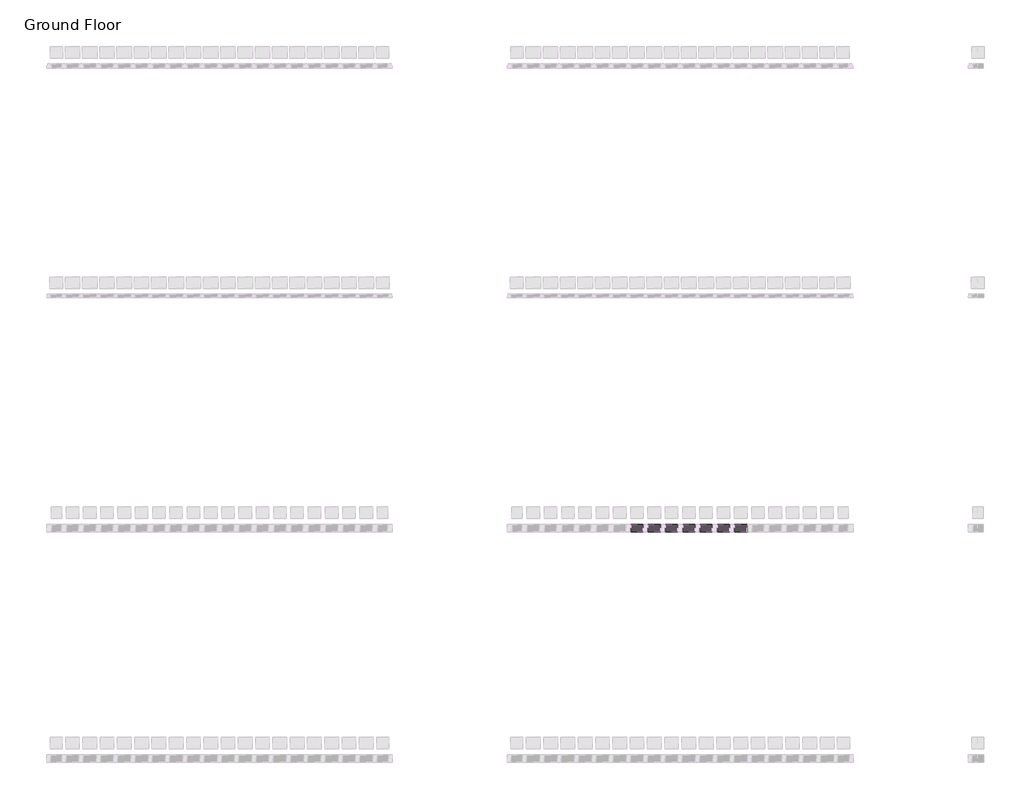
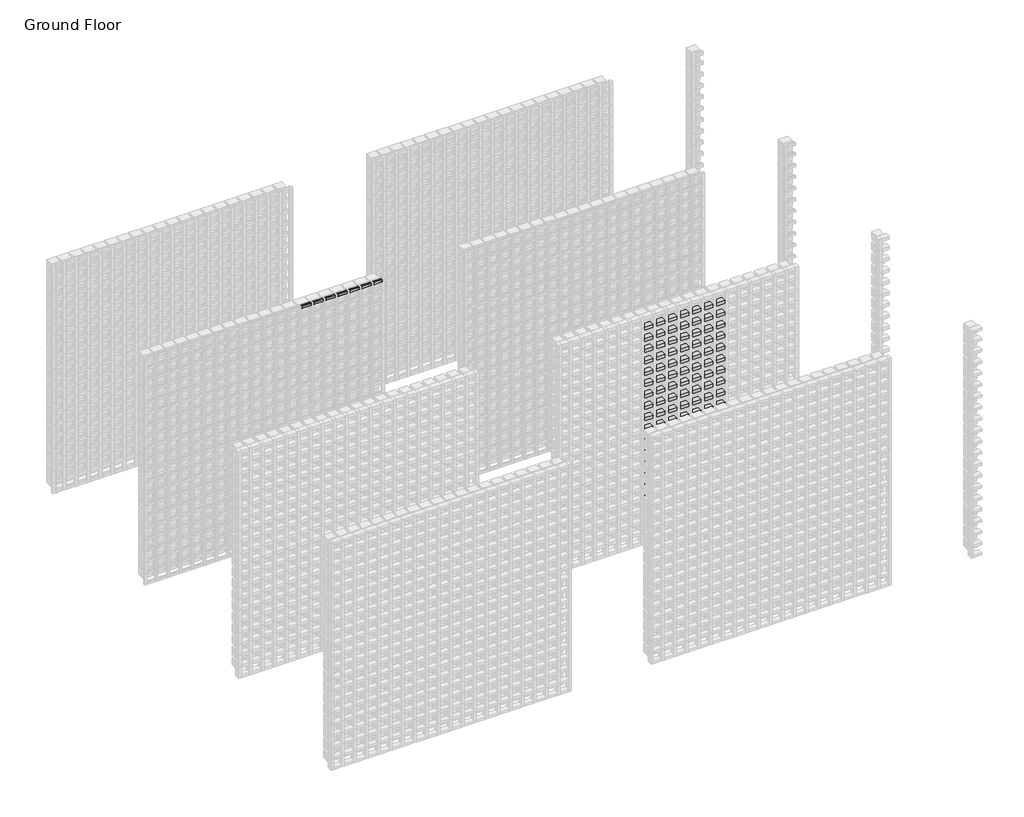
# One storey, part 149 of 350: 133 members, 9 plates.
"""IFC4 building model written with IfcOpenShell, lengths in millimetres."""

from ifc_helpers import new_model, si_unit, origin, place, context, project, spatial, transform, mapped, element, save
from components import rectangular_mullion_97e353d0, rectangular_mullion_f1976eb1, rectangular_mullion_66d447bf, rectangular_mullion_02594090, rectangular_mullion_7f8dba3f, rectangular_mullion_790ae51e, rectangular_mullion_a370a012, empty_system_panel_empty_5a3607ba, empty_system_panel_empty_babc703c, empty_system_panel_empty_56815599

model = new_model("IFC4")

# Units and contexts
model_context = context("Model", 3, world=origin())
ifc_project = project(units=[si_unit("LENGTHUNIT", "METRE", prefix="MILLI")], contexts=[model_context])

# Site, building, storey
site = spatial("IfcSite", under=ifc_project)
building = spatial("IfcBuilding", under=site)
storey = spatial("IfcBuildingStorey", under=building, Name="Ground Floor", Elevation=0.0)

# Members
placement = place(None, origin())
rectangular_mullion_shape = rectangular_mullion_97e353d0(model_context)
element("IfcMember", 1, ObjectType="Rectangular Mullion : Batten_Timber_Modinex_Austratus_Grid_Fascia_40x65_Ironbark", at=placement, inside=storey, context=model_context, shape_type="MappedRepresentation", body=[
    mapped(rectangular_mullion_shape, transform((15996.4361642, 40968.2978302, 450.0), x_axis=(0.0, 0.0, 1.0), y_axis=(0.0, -1.0, 0.0), z_axis=(1.0, 0.0, 0.0))),
])
element("IfcMember", 2, ObjectType="Rectangular Mullion : Batten_Timber_Modinex_Austratus_Grid_Fascia_40x65_Ironbark", at=placement, inside=storey, context=model_context, shape_type="MappedRepresentation", body=[
    mapped(rectangular_mullion_shape, transform((15096.4361642, 40968.2978302, 600.0), x_axis=(0.0, 0.0, 1.0), y_axis=(0.0, -1.0, 0.0), z_axis=(1.0, 0.0, 0.0))),
])
element("IfcMember", 3, ObjectType="Rectangular Mullion : Batten_Timber_Modinex_Austratus_Grid_Fascia_40x65_Ironbark", at=placement, inside=storey, context=model_context, shape_type="MappedRepresentation", body=[
    mapped(rectangular_mullion_shape, transform((15246.4361642, 40968.2978302, 600.0), x_axis=(0.0, 0.0, 1.0), y_axis=(0.0, -1.0, 0.0), z_axis=(1.0, 0.0, 0.0))),
])
element("IfcMember", 4, ObjectType="Rectangular Mullion : Batten_Timber_Modinex_Austratus_Grid_Fascia_40x65_Ironbark", at=placement, inside=storey, context=model_context, shape_type="MappedRepresentation", body=[
    mapped(rectangular_mullion_shape, transform((15396.4361642, 40968.2978302, 600.0), x_axis=(0.0, 0.0, 1.0), y_axis=(0.0, -1.0, 0.0), z_axis=(1.0, 0.0, 0.0))),
])
element("IfcMember", 5, ObjectType="Rectangular Mullion : Batten_Timber_Modinex_Austratus_Grid_Fascia_40x65_Ironbark", at=placement, inside=storey, context=model_context, shape_type="MappedRepresentation", body=[
    mapped(rectangular_mullion_shape, transform((15546.4361642, 40968.2978302, 600.0), x_axis=(0.0, 0.0, 1.0), y_axis=(0.0, -1.0, 0.0), z_axis=(1.0, 0.0, 0.0))),
])
element("IfcMember", 6, ObjectType="Rectangular Mullion : Batten_Timber_Modinex_Austratus_Grid_Fascia_40x65_Ironbark", at=placement, inside=storey, context=model_context, shape_type="MappedRepresentation", body=[
    mapped(rectangular_mullion_shape, transform((15696.4361642, 40968.2978302, 600.0), x_axis=(0.0, 0.0, 1.0), y_axis=(0.0, -1.0, 0.0), z_axis=(1.0, 0.0, 0.0))),
])
element("IfcMember", 7, ObjectType="Rectangular Mullion : Batten_Timber_Modinex_Austratus_Grid_Fascia_40x65_Ironbark", at=placement, inside=storey, context=model_context, shape_type="MappedRepresentation", body=[
    mapped(rectangular_mullion_shape, transform((15846.4361642, 40968.2978302, 600.0), x_axis=(0.0, 0.0, 1.0), y_axis=(0.0, -1.0, 0.0), z_axis=(1.0, 0.0, 0.0))),
])
element("IfcMember", 8, ObjectType="Rectangular Mullion : Batten_Timber_Modinex_Austratus_Grid_Fascia_40x65_Ironbark", at=placement, inside=storey, context=model_context, shape_type="MappedRepresentation", body=[
    mapped(rectangular_mullion_shape, transform((15996.4361642, 40968.2978302, 600.0), x_axis=(0.0, 0.0, 1.0), y_axis=(0.0, -1.0, 0.0), z_axis=(1.0, 0.0, 0.0))),
])
element("IfcMember", 9, ObjectType="Rectangular Mullion : Batten_Timber_Modinex_Austratus_Grid_Fascia_40x65_Ironbark", at=placement, inside=storey, context=model_context, shape_type="MappedRepresentation", body=[
    mapped(rectangular_mullion_shape, transform((15096.4361642, 40968.2978302, 750.0), x_axis=(0.0, 0.0, 1.0), y_axis=(0.0, -1.0, 0.0), z_axis=(1.0, 0.0, 0.0))),
])
element("IfcMember", 10, ObjectType="Rectangular Mullion : Batten_Timber_Modinex_Austratus_Grid_Fascia_40x65_Ironbark", at=placement, inside=storey, context=model_context, shape_type="MappedRepresentation", body=[
    mapped(rectangular_mullion_shape, transform((15246.4361642, 40968.2978302, 750.0), x_axis=(0.0, 0.0, 1.0), y_axis=(0.0, -1.0, 0.0), z_axis=(1.0, 0.0, 0.0))),
])
element("IfcMember", 11, ObjectType="Rectangular Mullion : Batten_Timber_Modinex_Austratus_Grid_Fascia_40x65_Ironbark", at=placement, inside=storey, context=model_context, shape_type="MappedRepresentation", body=[
    mapped(rectangular_mullion_shape, transform((15396.4361642, 40968.2978302, 750.0), x_axis=(0.0, 0.0, 1.0), y_axis=(0.0, -1.0, 0.0), z_axis=(1.0, 0.0, 0.0))),
])
element("IfcMember", 12, ObjectType="Rectangular Mullion : Batten_Timber_Modinex_Austratus_Grid_Fascia_40x65_Ironbark", at=placement, inside=storey, context=model_context, shape_type="MappedRepresentation", body=[
    mapped(rectangular_mullion_shape, transform((15546.4361642, 40968.2978302, 750.0), x_axis=(0.0, 0.0, 1.0), y_axis=(0.0, -1.0, 0.0), z_axis=(1.0, 0.0, 0.0))),
])
element("IfcMember", 13, ObjectType="Rectangular Mullion : Batten_Timber_Modinex_Austratus_Grid_Fascia_40x65_Ironbark", at=placement, inside=storey, context=model_context, shape_type="MappedRepresentation", body=[
    mapped(rectangular_mullion_shape, transform((15696.4361642, 40968.2978302, 750.0), x_axis=(0.0, 0.0, 1.0), y_axis=(0.0, -1.0, 0.0), z_axis=(1.0, 0.0, 0.0))),
])
element("IfcMember", 14, ObjectType="Rectangular Mullion : Batten_Timber_Modinex_Austratus_Grid_Fascia_40x65_Ironbark", at=placement, inside=storey, context=model_context, shape_type="MappedRepresentation", body=[
    mapped(rectangular_mullion_shape, transform((15846.4361642, 40968.2978302, 750.0), x_axis=(0.0, 0.0, 1.0), y_axis=(0.0, -1.0, 0.0), z_axis=(1.0, 0.0, 0.0))),
])
element("IfcMember", 15, ObjectType="Rectangular Mullion : Batten_Timber_Modinex_Austratus_Grid_Fascia_40x65_Ironbark", at=placement, inside=storey, context=model_context, shape_type="MappedRepresentation", body=[
    mapped(rectangular_mullion_shape, transform((15996.4361642, 40968.2978302, 750.0), x_axis=(0.0, 0.0, 1.0), y_axis=(0.0, -1.0, 0.0), z_axis=(1.0, 0.0, 0.0))),
])
element("IfcMember", 16, ObjectType="Rectangular Mullion : Batten_Timber_Modinex_Austratus_Grid_Fascia_40x65_Ironbark", at=placement, inside=storey, context=model_context, shape_type="MappedRepresentation", body=[
    mapped(rectangular_mullion_shape, transform((15096.4361642, 40968.2978302, 900.0), x_axis=(0.0, 0.0, 1.0), y_axis=(0.0, -1.0, 0.0), z_axis=(1.0, 0.0, 0.0))),
])
element("IfcMember", 17, ObjectType="Rectangular Mullion : Batten_Timber_Modinex_Austratus_Grid_Fascia_40x65_Ironbark", at=placement, inside=storey, context=model_context, shape_type="MappedRepresentation", body=[
    mapped(rectangular_mullion_shape, transform((15246.4361642, 40968.2978302, 900.0), x_axis=(0.0, 0.0, 1.0), y_axis=(0.0, -1.0, 0.0), z_axis=(1.0, 0.0, 0.0))),
])
element("IfcMember", 18, ObjectType="Rectangular Mullion : Batten_Timber_Modinex_Austratus_Grid_Fascia_40x65_Ironbark", at=placement, inside=storey, context=model_context, shape_type="MappedRepresentation", body=[
    mapped(rectangular_mullion_shape, transform((15396.4361642, 40968.2978302, 900.0), x_axis=(0.0, 0.0, 1.0), y_axis=(0.0, -1.0, 0.0), z_axis=(1.0, 0.0, 0.0))),
])
element("IfcMember", 19, ObjectType="Rectangular Mullion : Batten_Timber_Modinex_Austratus_Grid_Fascia_40x65_Ironbark", at=placement, inside=storey, context=model_context, shape_type="MappedRepresentation", body=[
    mapped(rectangular_mullion_shape, transform((15546.4361642, 40968.2978302, 900.0), x_axis=(0.0, 0.0, 1.0), y_axis=(0.0, -1.0, 0.0), z_axis=(1.0, 0.0, 0.0))),
])
element("IfcMember", 20, ObjectType="Rectangular Mullion : Batten_Timber_Modinex_Austratus_Grid_Fascia_40x65_Ironbark", at=placement, inside=storey, context=model_context, shape_type="MappedRepresentation", body=[
    mapped(rectangular_mullion_shape, transform((15696.4361642, 40968.2978302, 900.0), x_axis=(0.0, 0.0, 1.0), y_axis=(0.0, -1.0, 0.0), z_axis=(1.0, 0.0, 0.0))),
])
element("IfcMember", 21, ObjectType="Rectangular Mullion : Batten_Timber_Modinex_Austratus_Grid_Fascia_40x65_Ironbark", at=placement, inside=storey, context=model_context, shape_type="MappedRepresentation", body=[
    mapped(rectangular_mullion_shape, transform((15846.4361642, 40968.2978302, 900.0), x_axis=(0.0, 0.0, 1.0), y_axis=(0.0, -1.0, 0.0), z_axis=(1.0, 0.0, 0.0))),
])
element("IfcMember", 22, ObjectType="Rectangular Mullion : Batten_Timber_Modinex_Austratus_Grid_Fascia_40x65_Ironbark", at=placement, inside=storey, context=model_context, shape_type="MappedRepresentation", body=[
    mapped(rectangular_mullion_shape, transform((15996.4361642, 40968.2978302, 900.0), x_axis=(0.0, 0.0, 1.0), y_axis=(0.0, -1.0, 0.0), z_axis=(1.0, 0.0, 0.0))),
])
element("IfcMember", 23, ObjectType="Rectangular Mullion : Batten_Timber_Modinex_Austratus_Grid_Fascia_40x65_Ironbark", at=placement, inside=storey, context=model_context, shape_type="MappedRepresentation", body=[
    mapped(rectangular_mullion_shape, transform((15096.4361642, 40968.2978302, 1050.0), x_axis=(0.0, 0.0, 1.0), y_axis=(0.0, -1.0, 0.0), z_axis=(1.0, 0.0, 0.0))),
])
element("IfcMember", 24, ObjectType="Rectangular Mullion : Batten_Timber_Modinex_Austratus_Grid_Fascia_40x65_Ironbark", at=placement, inside=storey, context=model_context, shape_type="MappedRepresentation", body=[
    mapped(rectangular_mullion_shape, transform((15246.4361642, 40968.2978302, 1050.0), x_axis=(0.0, 0.0, 1.0), y_axis=(0.0, -1.0, 0.0), z_axis=(1.0, 0.0, 0.0))),
])
element("IfcMember", 25, ObjectType="Rectangular Mullion : Batten_Timber_Modinex_Austratus_Grid_Fascia_40x65_Ironbark", at=placement, inside=storey, context=model_context, shape_type="MappedRepresentation", body=[
    mapped(rectangular_mullion_shape, transform((15396.4361642, 40968.2978302, 1050.0), x_axis=(0.0, 0.0, 1.0), y_axis=(0.0, -1.0, 0.0), z_axis=(1.0, 0.0, 0.0))),
])
element("IfcMember", 26, ObjectType="Rectangular Mullion : Batten_Timber_Modinex_Austratus_Grid_Fascia_40x65_Ironbark", at=placement, inside=storey, context=model_context, shape_type="MappedRepresentation", body=[
    mapped(rectangular_mullion_shape, transform((15546.4361642, 40968.2978302, 1050.0), x_axis=(0.0, 0.0, 1.0), y_axis=(0.0, -1.0, 0.0), z_axis=(1.0, 0.0, 0.0))),
])
element("IfcMember", 27, ObjectType="Rectangular Mullion : Batten_Timber_Modinex_Austratus_Grid_Fascia_40x65_Ironbark", at=placement, inside=storey, context=model_context, shape_type="MappedRepresentation", body=[
    mapped(rectangular_mullion_shape, transform((15696.4361642, 40968.2978302, 1050.0), x_axis=(0.0, 0.0, 1.0), y_axis=(0.0, -1.0, 0.0), z_axis=(1.0, 0.0, 0.0))),
])
element("IfcMember", 28, ObjectType="Rectangular Mullion : Batten_Timber_Modinex_Austratus_Grid_Fascia_40x65_Ironbark", at=placement, inside=storey, context=model_context, shape_type="MappedRepresentation", body=[
    mapped(rectangular_mullion_shape, transform((15846.4361642, 40968.2978302, 1050.0), x_axis=(0.0, 0.0, 1.0), y_axis=(0.0, -1.0, 0.0), z_axis=(1.0, 0.0, 0.0))),
])
element("IfcMember", 29, ObjectType="Rectangular Mullion : Batten_Timber_Modinex_Austratus_Grid_Fascia_40x65_Ironbark", at=placement, inside=storey, context=model_context, shape_type="MappedRepresentation", body=[
    mapped(rectangular_mullion_shape, transform((15996.4361642, 40968.2978302, 1050.0), x_axis=(0.0, 0.0, 1.0), y_axis=(0.0, -1.0, 0.0), z_axis=(1.0, 0.0, 0.0))),
])
element("IfcMember", 30, ObjectType="Rectangular Mullion : Batten_Timber_Modinex_Austratus_Grid_Fascia_40x65_Ironbark", at=placement, inside=storey, context=model_context, shape_type="MappedRepresentation", body=[
    mapped(rectangular_mullion_shape, transform((15096.4361642, 40968.2978302, 1200.0), x_axis=(0.0, 0.0, 1.0), y_axis=(0.0, -1.0, 0.0), z_axis=(1.0, 0.0, 0.0))),
])
element("IfcMember", 31, ObjectType="Rectangular Mullion : Batten_Timber_Modinex_Austratus_Grid_Fascia_40x65_Ironbark", at=placement, inside=storey, context=model_context, shape_type="MappedRepresentation", body=[
    mapped(rectangular_mullion_shape, transform((15246.4361642, 40968.2978302, 1200.0), x_axis=(0.0, 0.0, 1.0), y_axis=(0.0, -1.0, 0.0), z_axis=(1.0, 0.0, 0.0))),
])
element("IfcMember", 32, ObjectType="Rectangular Mullion : Batten_Timber_Modinex_Austratus_Grid_Fascia_40x65_Ironbark", at=placement, inside=storey, context=model_context, shape_type="MappedRepresentation", body=[
    mapped(rectangular_mullion_shape, transform((15396.4361642, 40968.2978302, 1200.0), x_axis=(0.0, 0.0, 1.0), y_axis=(0.0, -1.0, 0.0), z_axis=(1.0, 0.0, 0.0))),
])
element("IfcMember", 33, ObjectType="Rectangular Mullion : Batten_Timber_Modinex_Austratus_Grid_Fascia_40x65_Ironbark", at=placement, inside=storey, context=model_context, shape_type="MappedRepresentation", body=[
    mapped(rectangular_mullion_shape, transform((15546.4361642, 40968.2978302, 1200.0), x_axis=(0.0, 0.0, 1.0), y_axis=(0.0, -1.0, 0.0), z_axis=(1.0, 0.0, 0.0))),
])
element("IfcMember", 34, ObjectType="Rectangular Mullion : Batten_Timber_Modinex_Austratus_Grid_Fascia_40x65_Ironbark", at=placement, inside=storey, context=model_context, shape_type="MappedRepresentation", body=[
    mapped(rectangular_mullion_shape, transform((15696.4361642, 40968.2978302, 1200.0), x_axis=(0.0, 0.0, 1.0), y_axis=(0.0, -1.0, 0.0), z_axis=(1.0, 0.0, 0.0))),
])
element("IfcMember", 35, ObjectType="Rectangular Mullion : Batten_Timber_Modinex_Austratus_Grid_Fascia_40x65_Ironbark", at=placement, inside=storey, context=model_context, shape_type="MappedRepresentation", body=[
    mapped(rectangular_mullion_shape, transform((15846.4361642, 40968.2978302, 1200.0), x_axis=(0.0, 0.0, 1.0), y_axis=(0.0, -1.0, 0.0), z_axis=(1.0, 0.0, 0.0))),
])
element("IfcMember", 36, ObjectType="Rectangular Mullion : Batten_Timber_Modinex_Austratus_Grid_Fascia_40x65_Ironbark", at=placement, inside=storey, context=model_context, shape_type="MappedRepresentation", body=[
    mapped(rectangular_mullion_shape, transform((15996.4361642, 40968.2978302, 1200.0), x_axis=(0.0, 0.0, 1.0), y_axis=(0.0, -1.0, 0.0), z_axis=(1.0, 0.0, 0.0))),
])
element("IfcMember", 37, ObjectType="Rectangular Mullion : Batten_Timber_Modinex_Austratus_Grid_Fascia_40x65_Ironbark", at=placement, inside=storey, context=model_context, shape_type="MappedRepresentation", body=[
    mapped(rectangular_mullion_shape, transform((15096.4361642, 40968.2978302, 1350.0), x_axis=(0.0, 0.0, 1.0), y_axis=(0.0, -1.0, 0.0), z_axis=(1.0, 0.0, 0.0))),
])
element("IfcMember", 38, ObjectType="Rectangular Mullion : Batten_Timber_Modinex_Austratus_Grid_Fascia_40x65_Ironbark", at=placement, inside=storey, context=model_context, shape_type="MappedRepresentation", body=[
    mapped(rectangular_mullion_shape, transform((15246.4361642, 40968.2978302, 1350.0), x_axis=(0.0, 0.0, 1.0), y_axis=(0.0, -1.0, 0.0), z_axis=(1.0, 0.0, 0.0))),
])
element("IfcMember", 39, ObjectType="Rectangular Mullion : Batten_Timber_Modinex_Austratus_Grid_Fascia_40x65_Ironbark", at=placement, inside=storey, context=model_context, shape_type="MappedRepresentation", body=[
    mapped(rectangular_mullion_shape, transform((15396.4361642, 40968.2978302, 1350.0), x_axis=(0.0, 0.0, 1.0), y_axis=(0.0, -1.0, 0.0), z_axis=(1.0, 0.0, 0.0))),
])
element("IfcMember", 40, ObjectType="Rectangular Mullion : Batten_Timber_Modinex_Austratus_Grid_Fascia_40x65_Ironbark", at=placement, inside=storey, context=model_context, shape_type="MappedRepresentation", body=[
    mapped(rectangular_mullion_shape, transform((15546.4361642, 40968.2978302, 1350.0), x_axis=(0.0, 0.0, 1.0), y_axis=(0.0, -1.0, 0.0), z_axis=(1.0, 0.0, 0.0))),
])
element("IfcMember", 41, ObjectType="Rectangular Mullion : Batten_Timber_Modinex_Austratus_Grid_Fascia_40x65_Ironbark", at=placement, inside=storey, context=model_context, shape_type="MappedRepresentation", body=[
    mapped(rectangular_mullion_shape, transform((15696.4361642, 40968.2978302, 1350.0), x_axis=(0.0, 0.0, 1.0), y_axis=(0.0, -1.0, 0.0), z_axis=(1.0, 0.0, 0.0))),
])
element("IfcMember", 42, ObjectType="Rectangular Mullion : Batten_Timber_Modinex_Austratus_Grid_Fascia_40x65_Ironbark", at=placement, inside=storey, context=model_context, shape_type="MappedRepresentation", body=[
    mapped(rectangular_mullion_shape, transform((15846.4361642, 40968.2978302, 1350.0), x_axis=(0.0, 0.0, 1.0), y_axis=(0.0, -1.0, 0.0), z_axis=(1.0, 0.0, 0.0))),
])
element("IfcMember", 43, ObjectType="Rectangular Mullion : Batten_Timber_Modinex_Austratus_Grid_Fascia_40x65_Ironbark", at=placement, inside=storey, context=model_context, shape_type="MappedRepresentation", body=[
    mapped(rectangular_mullion_shape, transform((15996.4361642, 40968.2978302, 1350.0), x_axis=(0.0, 0.0, 1.0), y_axis=(0.0, -1.0, 0.0), z_axis=(1.0, 0.0, 0.0))),
])
element("IfcMember", 44, ObjectType="Rectangular Mullion : Batten_Timber_Modinex_Austratus_Grid_Fascia_40x65_Ironbark", at=placement, inside=storey, context=model_context, shape_type="MappedRepresentation", body=[
    mapped(rectangular_mullion_shape, transform((15096.4361642, 40968.2978302, 1500.0), x_axis=(0.0, 0.0, 1.0), y_axis=(0.0, -1.0, 0.0), z_axis=(1.0, 0.0, 0.0))),
])
element("IfcMember", 45, ObjectType="Rectangular Mullion : Batten_Timber_Modinex_Austratus_Grid_Fascia_40x65_Ironbark", at=placement, inside=storey, context=model_context, shape_type="MappedRepresentation", body=[
    mapped(rectangular_mullion_shape, transform((15246.4361642, 40968.2978302, 1500.0), x_axis=(0.0, 0.0, 1.0), y_axis=(0.0, -1.0, 0.0), z_axis=(1.0, 0.0, 0.0))),
])
element("IfcMember", 46, ObjectType="Rectangular Mullion : Batten_Timber_Modinex_Austratus_Grid_Fascia_40x65_Ironbark", at=placement, inside=storey, context=model_context, shape_type="MappedRepresentation", body=[
    mapped(rectangular_mullion_shape, transform((15396.4361642, 40968.2978302, 1500.0), x_axis=(0.0, 0.0, 1.0), y_axis=(0.0, -1.0, 0.0), z_axis=(1.0, 0.0, 0.0))),
])
element("IfcMember", 47, ObjectType="Rectangular Mullion : Batten_Timber_Modinex_Austratus_Grid_Fascia_40x65_Ironbark", at=placement, inside=storey, context=model_context, shape_type="MappedRepresentation", body=[
    mapped(rectangular_mullion_shape, transform((15546.4361642, 40968.2978302, 1500.0), x_axis=(0.0, 0.0, 1.0), y_axis=(0.0, -1.0, 0.0), z_axis=(1.0, 0.0, 0.0))),
])
element("IfcMember", 48, ObjectType="Rectangular Mullion : Batten_Timber_Modinex_Austratus_Grid_Fascia_40x65_Ironbark", at=placement, inside=storey, context=model_context, shape_type="MappedRepresentation", body=[
    mapped(rectangular_mullion_shape, transform((15696.4361642, 40968.2978302, 1500.0), x_axis=(0.0, 0.0, 1.0), y_axis=(0.0, -1.0, 0.0), z_axis=(1.0, 0.0, 0.0))),
])
element("IfcMember", 49, ObjectType="Rectangular Mullion : Batten_Timber_Modinex_Austratus_Grid_Fascia_40x65_Ironbark", at=placement, inside=storey, context=model_context, shape_type="MappedRepresentation", body=[
    mapped(rectangular_mullion_shape, transform((15846.4361642, 40968.2978302, 1500.0), x_axis=(0.0, 0.0, 1.0), y_axis=(0.0, -1.0, 0.0), z_axis=(1.0, 0.0, 0.0))),
])
element("IfcMember", 50, ObjectType="Rectangular Mullion : Batten_Timber_Modinex_Austratus_Grid_Fascia_40x65_Ironbark", at=placement, inside=storey, context=model_context, shape_type="MappedRepresentation", body=[
    mapped(rectangular_mullion_shape, transform((15996.4361642, 40968.2978302, 1500.0), x_axis=(0.0, 0.0, 1.0), y_axis=(0.0, -1.0, 0.0), z_axis=(1.0, 0.0, 0.0))),
])
element("IfcMember", 51, ObjectType="Rectangular Mullion : Batten_Timber_Modinex_Austratus_Grid_Fascia_40x65_Ironbark", at=placement, inside=storey, context=model_context, shape_type="MappedRepresentation", body=[
    mapped(rectangular_mullion_shape, transform((15096.4361642, 40968.2978302, 1650.0), x_axis=(0.0, 0.0, 1.0), y_axis=(0.0, -1.0, 0.0), z_axis=(1.0, 0.0, 0.0))),
])
element("IfcMember", 52, ObjectType="Rectangular Mullion : Batten_Timber_Modinex_Austratus_Grid_Fascia_40x65_Ironbark", at=placement, inside=storey, context=model_context, shape_type="MappedRepresentation", body=[
    mapped(rectangular_mullion_shape, transform((15246.4361642, 40968.2978302, 1650.0), x_axis=(0.0, 0.0, 1.0), y_axis=(0.0, -1.0, 0.0), z_axis=(1.0, 0.0, 0.0))),
])
element("IfcMember", 53, ObjectType="Rectangular Mullion : Batten_Timber_Modinex_Austratus_Grid_Fascia_40x65_Ironbark", at=placement, inside=storey, context=model_context, shape_type="MappedRepresentation", body=[
    mapped(rectangular_mullion_shape, transform((15396.4361642, 40968.2978302, 1650.0), x_axis=(0.0, 0.0, 1.0), y_axis=(0.0, -1.0, 0.0), z_axis=(1.0, 0.0, 0.0))),
])
element("IfcMember", 54, ObjectType="Rectangular Mullion : Batten_Timber_Modinex_Austratus_Grid_Fascia_40x65_Ironbark", at=placement, inside=storey, context=model_context, shape_type="MappedRepresentation", body=[
    mapped(rectangular_mullion_shape, transform((15546.4361642, 40968.2978302, 1650.0), x_axis=(0.0, 0.0, 1.0), y_axis=(0.0, -1.0, 0.0), z_axis=(1.0, 0.0, 0.0))),
])
element("IfcMember", 55, ObjectType="Rectangular Mullion : Batten_Timber_Modinex_Austratus_Grid_Fascia_40x65_Ironbark", at=placement, inside=storey, context=model_context, shape_type="MappedRepresentation", body=[
    mapped(rectangular_mullion_shape, transform((15696.4361642, 40968.2978302, 1650.0), x_axis=(0.0, 0.0, 1.0), y_axis=(0.0, -1.0, 0.0), z_axis=(1.0, 0.0, 0.0))),
])
element("IfcMember", 56, ObjectType="Rectangular Mullion : Batten_Timber_Modinex_Austratus_Grid_Fascia_40x65_Ironbark", at=placement, inside=storey, context=model_context, shape_type="MappedRepresentation", body=[
    mapped(rectangular_mullion_shape, transform((15846.4361642, 40968.2978302, 1650.0), x_axis=(0.0, 0.0, 1.0), y_axis=(0.0, -1.0, 0.0), z_axis=(1.0, 0.0, 0.0))),
])
element("IfcMember", 57, ObjectType="Rectangular Mullion : Batten_Timber_Modinex_Austratus_Grid_Fascia_40x65_Ironbark", at=placement, inside=storey, context=model_context, shape_type="MappedRepresentation", body=[
    mapped(rectangular_mullion_shape, transform((15996.4361642, 40968.2978302, 1650.0), x_axis=(0.0, 0.0, 1.0), y_axis=(0.0, -1.0, 0.0), z_axis=(1.0, 0.0, 0.0))),
])
element("IfcMember", 58, ObjectType="Rectangular Mullion : Batten_Timber_Modinex_Austratus_Grid_Fascia_40x65_Ironbark", at=placement, inside=storey, context=model_context, shape_type="MappedRepresentation", body=[
    mapped(rectangular_mullion_shape, transform((15096.4361642, 40968.2978302, 1800.0), x_axis=(0.0, 0.0, 1.0), y_axis=(0.0, -1.0, 0.0), z_axis=(1.0, 0.0, 0.0))),
])
element("IfcMember", 59, ObjectType="Rectangular Mullion : Batten_Timber_Modinex_Austratus_Grid_Fascia_40x65_Ironbark", at=placement, inside=storey, context=model_context, shape_type="MappedRepresentation", body=[
    mapped(rectangular_mullion_shape, transform((15246.4361642, 40968.2978302, 1800.0), x_axis=(0.0, 0.0, 1.0), y_axis=(0.0, -1.0, 0.0), z_axis=(1.0, 0.0, 0.0))),
])
element("IfcMember", 60, ObjectType="Rectangular Mullion : Batten_Timber_Modinex_Austratus_Grid_Fascia_40x65_Ironbark", at=placement, inside=storey, context=model_context, shape_type="MappedRepresentation", body=[
    mapped(rectangular_mullion_shape, transform((15396.4361642, 40968.2978302, 1800.0), x_axis=(0.0, 0.0, 1.0), y_axis=(0.0, -1.0, 0.0), z_axis=(1.0, 0.0, 0.0))),
])
element("IfcMember", 61, ObjectType="Rectangular Mullion : Batten_Timber_Modinex_Austratus_Grid_Fascia_40x65_Ironbark", at=placement, inside=storey, context=model_context, shape_type="MappedRepresentation", body=[
    mapped(rectangular_mullion_shape, transform((15546.4361642, 40968.2978302, 1800.0), x_axis=(0.0, 0.0, 1.0), y_axis=(0.0, -1.0, 0.0), z_axis=(1.0, 0.0, 0.0))),
])
element("IfcMember", 62, ObjectType="Rectangular Mullion : Batten_Timber_Modinex_Austratus_Grid_Fascia_40x65_Ironbark", at=placement, inside=storey, context=model_context, shape_type="MappedRepresentation", body=[
    mapped(rectangular_mullion_shape, transform((15696.4361642, 40968.2978302, 1800.0), x_axis=(0.0, 0.0, 1.0), y_axis=(0.0, -1.0, 0.0), z_axis=(1.0, 0.0, 0.0))),
])
element("IfcMember", 63, ObjectType="Rectangular Mullion : Batten_Timber_Modinex_Austratus_Grid_Fascia_40x65_Ironbark", at=placement, inside=storey, context=model_context, shape_type="MappedRepresentation", body=[
    mapped(rectangular_mullion_shape, transform((15846.4361642, 40968.2978302, 1800.0), x_axis=(0.0, 0.0, 1.0), y_axis=(0.0, -1.0, 0.0), z_axis=(1.0, 0.0, 0.0))),
])
element("IfcMember", 64, ObjectType="Rectangular Mullion : Batten_Timber_Modinex_Austratus_Grid_Fascia_40x65_Ironbark", at=placement, inside=storey, context=model_context, shape_type="MappedRepresentation", body=[
    mapped(rectangular_mullion_shape, transform((15996.4361642, 40968.2978302, 1800.0), x_axis=(0.0, 0.0, 1.0), y_axis=(0.0, -1.0, 0.0), z_axis=(1.0, 0.0, 0.0))),
])
element("IfcMember", 65, ObjectType="Rectangular Mullion : Batten_Timber_Modinex_Austratus_Grid_Fascia_40x65_Ironbark", at=placement, inside=storey, context=model_context, shape_type="MappedRepresentation", body=[
    mapped(rectangular_mullion_shape, transform((15096.4361642, 40968.2978302, 1950.0), x_axis=(0.0, 0.0, 1.0), y_axis=(0.0, -1.0, 0.0), z_axis=(1.0, 0.0, 0.0))),
])
element("IfcMember", 66, ObjectType="Rectangular Mullion : Batten_Timber_Modinex_Austratus_Grid_Fascia_40x65_Ironbark", at=placement, inside=storey, context=model_context, shape_type="MappedRepresentation", body=[
    mapped(rectangular_mullion_shape, transform((15246.4361642, 40968.2978302, 1950.0), x_axis=(0.0, 0.0, 1.0), y_axis=(0.0, -1.0, 0.0), z_axis=(1.0, 0.0, 0.0))),
])
element("IfcMember", 67, ObjectType="Rectangular Mullion : Batten_Timber_Modinex_Austratus_Grid_Fascia_40x65_Ironbark", at=placement, inside=storey, context=model_context, shape_type="MappedRepresentation", body=[
    mapped(rectangular_mullion_shape, transform((15396.4361642, 40968.2978302, 1950.0), x_axis=(0.0, 0.0, 1.0), y_axis=(0.0, -1.0, 0.0), z_axis=(1.0, 0.0, 0.0))),
])
element("IfcMember", 68, ObjectType="Rectangular Mullion : Batten_Timber_Modinex_Austratus_Grid_Fascia_40x65_Ironbark", at=placement, inside=storey, context=model_context, shape_type="MappedRepresentation", body=[
    mapped(rectangular_mullion_shape, transform((15546.4361642, 40968.2978302, 1950.0), x_axis=(0.0, 0.0, 1.0), y_axis=(0.0, -1.0, 0.0), z_axis=(1.0, 0.0, 0.0))),
])
element("IfcMember", 69, ObjectType="Rectangular Mullion : Batten_Timber_Modinex_Austratus_Grid_Fascia_40x65_Ironbark", at=placement, inside=storey, context=model_context, shape_type="MappedRepresentation", body=[
    mapped(rectangular_mullion_shape, transform((15696.4361642, 40968.2978302, 1950.0), x_axis=(0.0, 0.0, 1.0), y_axis=(0.0, -1.0, 0.0), z_axis=(1.0, 0.0, 0.0))),
])
element("IfcMember", 70, ObjectType="Rectangular Mullion : Batten_Timber_Modinex_Austratus_Grid_Fascia_40x65_Ironbark", at=placement, inside=storey, context=model_context, shape_type="MappedRepresentation", body=[
    mapped(rectangular_mullion_shape, transform((15846.4361642, 40968.2978302, 1950.0), x_axis=(0.0, 0.0, 1.0), y_axis=(0.0, -1.0, 0.0), z_axis=(1.0, 0.0, 0.0))),
])
element("IfcMember", 71, ObjectType="Rectangular Mullion : Batten_Timber_Modinex_Austratus_Grid_Fascia_40x65_Ironbark", at=placement, inside=storey, context=model_context, shape_type="MappedRepresentation", body=[
    mapped(rectangular_mullion_shape, transform((15996.4361642, 40968.2978302, 1950.0), x_axis=(0.0, 0.0, 1.0), y_axis=(0.0, -1.0, 0.0), z_axis=(1.0, 0.0, 0.0))),
])
element("IfcMember", 72, ObjectType="Rectangular Mullion : Batten_Timber_Modinex_Austratus_Grid_Fascia_40x65_Ironbark", at=placement, inside=storey, context=model_context, shape_type="MappedRepresentation", body=[
    mapped(rectangular_mullion_shape, transform((15096.4361642, 40968.2978302, 2100.0), x_axis=(0.0, 0.0, 1.0), y_axis=(0.0, -1.0, 0.0), z_axis=(1.0, 0.0, 0.0))),
])
element("IfcMember", 73, ObjectType="Rectangular Mullion : Batten_Timber_Modinex_Austratus_Grid_Fascia_40x65_Ironbark", at=placement, inside=storey, context=model_context, shape_type="MappedRepresentation", body=[
    mapped(rectangular_mullion_shape, transform((15246.4361642, 40968.2978302, 2100.0), x_axis=(0.0, 0.0, 1.0), y_axis=(0.0, -1.0, 0.0), z_axis=(1.0, 0.0, 0.0))),
])
element("IfcMember", 74, ObjectType="Rectangular Mullion : Batten_Timber_Modinex_Austratus_Grid_Fascia_40x65_Ironbark", at=placement, inside=storey, context=model_context, shape_type="MappedRepresentation", body=[
    mapped(rectangular_mullion_shape, transform((15396.4361642, 40968.2978302, 2100.0), x_axis=(0.0, 0.0, 1.0), y_axis=(0.0, -1.0, 0.0), z_axis=(1.0, 0.0, 0.0))),
])
element("IfcMember", 75, ObjectType="Rectangular Mullion : Batten_Timber_Modinex_Austratus_Grid_Fascia_40x65_Ironbark", at=placement, inside=storey, context=model_context, shape_type="MappedRepresentation", body=[
    mapped(rectangular_mullion_shape, transform((15546.4361642, 40968.2978302, 2100.0), x_axis=(0.0, 0.0, 1.0), y_axis=(0.0, -1.0, 0.0), z_axis=(1.0, 0.0, 0.0))),
])
element("IfcMember", 76, ObjectType="Rectangular Mullion : Batten_Timber_Modinex_Austratus_Grid_Fascia_40x65_Ironbark", at=placement, inside=storey, context=model_context, shape_type="MappedRepresentation", body=[
    mapped(rectangular_mullion_shape, transform((15696.4361642, 40968.2978302, 2100.0), x_axis=(0.0, 0.0, 1.0), y_axis=(0.0, -1.0, 0.0), z_axis=(1.0, 0.0, 0.0))),
])
element("IfcMember", 77, ObjectType="Rectangular Mullion : Batten_Timber_Modinex_Austratus_Grid_Fascia_40x65_Ironbark", at=placement, inside=storey, context=model_context, shape_type="MappedRepresentation", body=[
    mapped(rectangular_mullion_shape, transform((15846.4361642, 40968.2978302, 2100.0), x_axis=(0.0, 0.0, 1.0), y_axis=(0.0, -1.0, 0.0), z_axis=(1.0, 0.0, 0.0))),
])
element("IfcMember", 78, ObjectType="Rectangular Mullion : Batten_Timber_Modinex_Austratus_Grid_Fascia_40x65_Ironbark", at=placement, inside=storey, context=model_context, shape_type="MappedRepresentation", body=[
    mapped(rectangular_mullion_shape, transform((15996.4361642, 40968.2978302, 2100.0), x_axis=(0.0, 0.0, 1.0), y_axis=(0.0, -1.0, 0.0), z_axis=(1.0, 0.0, 0.0))),
])
element("IfcMember", 79, ObjectType="Rectangular Mullion : Batten_Timber_Modinex_Austratus_Grid_Fascia_40x65_Ironbark", at=placement, inside=storey, context=model_context, shape_type="MappedRepresentation", body=[
    mapped(rectangular_mullion_shape, transform((15096.4361642, 40968.2978302, 2250.0), x_axis=(0.0, 0.0, 1.0), y_axis=(0.0, -1.0, 0.0), z_axis=(1.0, 0.0, 0.0))),
])
element("IfcMember", 80, ObjectType="Rectangular Mullion : Batten_Timber_Modinex_Austratus_Grid_Fascia_40x65_Ironbark", at=placement, inside=storey, context=model_context, shape_type="MappedRepresentation", body=[
    mapped(rectangular_mullion_shape, transform((15246.4361642, 40968.2978302, 2250.0), x_axis=(0.0, 0.0, 1.0), y_axis=(0.0, -1.0, 0.0), z_axis=(1.0, 0.0, 0.0))),
])
element("IfcMember", 81, ObjectType="Rectangular Mullion : Batten_Timber_Modinex_Austratus_Grid_Fascia_40x65_Ironbark", at=placement, inside=storey, context=model_context, shape_type="MappedRepresentation", body=[
    mapped(rectangular_mullion_shape, transform((15396.4361642, 40968.2978302, 2250.0), x_axis=(0.0, 0.0, 1.0), y_axis=(0.0, -1.0, 0.0), z_axis=(1.0, 0.0, 0.0))),
])
element("IfcMember", 82, ObjectType="Rectangular Mullion : Batten_Timber_Modinex_Austratus_Grid_Fascia_40x65_Ironbark", at=placement, inside=storey, context=model_context, shape_type="MappedRepresentation", body=[
    mapped(rectangular_mullion_shape, transform((15546.4361642, 40968.2978302, 2250.0), x_axis=(0.0, 0.0, 1.0), y_axis=(0.0, -1.0, 0.0), z_axis=(1.0, 0.0, 0.0))),
])
element("IfcMember", 83, ObjectType="Rectangular Mullion : Batten_Timber_Modinex_Austratus_Grid_Fascia_40x65_Ironbark", at=placement, inside=storey, context=model_context, shape_type="MappedRepresentation", body=[
    mapped(rectangular_mullion_shape, transform((15696.4361642, 40968.2978302, 2250.0), x_axis=(0.0, 0.0, 1.0), y_axis=(0.0, -1.0, 0.0), z_axis=(1.0, 0.0, 0.0))),
])
element("IfcMember", 84, ObjectType="Rectangular Mullion : Batten_Timber_Modinex_Austratus_Grid_Fascia_40x65_Ironbark", at=placement, inside=storey, context=model_context, shape_type="MappedRepresentation", body=[
    mapped(rectangular_mullion_shape, transform((15846.4361642, 40968.2978302, 2250.0), x_axis=(0.0, 0.0, 1.0), y_axis=(0.0, -1.0, 0.0), z_axis=(1.0, 0.0, 0.0))),
])
element("IfcMember", 85, ObjectType="Rectangular Mullion : Batten_Timber_Modinex_Austratus_Grid_Fascia_40x65_Ironbark", at=placement, inside=storey, context=model_context, shape_type="MappedRepresentation", body=[
    mapped(rectangular_mullion_shape, transform((15996.4361642, 40968.2978302, 2250.0), x_axis=(0.0, 0.0, 1.0), y_axis=(0.0, -1.0, 0.0), z_axis=(1.0, 0.0, 0.0))),
])
element("IfcMember", 86, ObjectType="Rectangular Mullion : Batten_Timber_Modinex_Austratus_Grid_Fascia_40x65_Ironbark", at=placement, inside=storey, context=model_context, shape_type="MappedRepresentation", body=[
    mapped(rectangular_mullion_shape, transform((15096.4361642, 40968.2978302, 2400.0), x_axis=(0.0, 0.0, 1.0), y_axis=(0.0, -1.0, 0.0), z_axis=(1.0, 0.0, 0.0))),
])
element("IfcMember", 87, ObjectType="Rectangular Mullion : Batten_Timber_Modinex_Austratus_Grid_Fascia_40x65_Ironbark", at=placement, inside=storey, context=model_context, shape_type="MappedRepresentation", body=[
    mapped(rectangular_mullion_shape, transform((15246.4361642, 40968.2978302, 2400.0), x_axis=(0.0, 0.0, 1.0), y_axis=(0.0, -1.0, 0.0), z_axis=(1.0, 0.0, 0.0))),
])
element("IfcMember", 88, ObjectType="Rectangular Mullion : Batten_Timber_Modinex_Austratus_Grid_Fascia_40x65_Ironbark", at=placement, inside=storey, context=model_context, shape_type="MappedRepresentation", body=[
    mapped(rectangular_mullion_shape, transform((15396.4361642, 40968.2978302, 2400.0), x_axis=(0.0, 0.0, 1.0), y_axis=(0.0, -1.0, 0.0), z_axis=(1.0, 0.0, 0.0))),
])
element("IfcMember", 89, ObjectType="Rectangular Mullion : Batten_Timber_Modinex_Austratus_Grid_Fascia_40x65_Ironbark", at=placement, inside=storey, context=model_context, shape_type="MappedRepresentation", body=[
    mapped(rectangular_mullion_shape, transform((15546.4361642, 40968.2978302, 2400.0), x_axis=(0.0, 0.0, 1.0), y_axis=(0.0, -1.0, 0.0), z_axis=(1.0, 0.0, 0.0))),
])
element("IfcMember", 90, ObjectType="Rectangular Mullion : Batten_Timber_Modinex_Austratus_Grid_Fascia_40x65_Ironbark", at=placement, inside=storey, context=model_context, shape_type="MappedRepresentation", body=[
    mapped(rectangular_mullion_shape, transform((15696.4361642, 40968.2978302, 2400.0), x_axis=(0.0, 0.0, 1.0), y_axis=(0.0, -1.0, 0.0), z_axis=(1.0, 0.0, 0.0))),
])
element("IfcMember", 91, ObjectType="Rectangular Mullion : Batten_Timber_Modinex_Austratus_Grid_Fascia_40x65_Ironbark", at=placement, inside=storey, context=model_context, shape_type="MappedRepresentation", body=[
    mapped(rectangular_mullion_shape, transform((15846.4361642, 40968.2978302, 2400.0), x_axis=(0.0, 0.0, 1.0), y_axis=(0.0, -1.0, 0.0), z_axis=(1.0, 0.0, 0.0))),
])
element("IfcMember", 92, ObjectType="Rectangular Mullion : Batten_Timber_Modinex_Austratus_Grid_Fascia_40x65_Ironbark", at=placement, inside=storey, context=model_context, shape_type="MappedRepresentation", body=[
    mapped(rectangular_mullion_shape, transform((15996.4361642, 40968.2978302, 2400.0), x_axis=(0.0, 0.0, 1.0), y_axis=(0.0, -1.0, 0.0), z_axis=(1.0, 0.0, 0.0))),
])
element("IfcMember", 93, ObjectType="Rectangular Mullion : Batten_Timber_Modinex_Austratus_Grid_Fascia_40x65_Ironbark", at=placement, inside=storey, context=model_context, shape_type="MappedRepresentation", body=[
    mapped(rectangular_mullion_shape, transform((15096.4361642, 40968.2978302, 2550.0), x_axis=(0.0, 0.0, 1.0), y_axis=(0.0, -1.0, 0.0), z_axis=(1.0, 0.0, 0.0))),
])
element("IfcMember", 94, ObjectType="Rectangular Mullion : Batten_Timber_Modinex_Austratus_Grid_Fascia_40x65_Ironbark", at=placement, inside=storey, context=model_context, shape_type="MappedRepresentation", body=[
    mapped(rectangular_mullion_shape, transform((15246.4361642, 40968.2978302, 2550.0), x_axis=(0.0, 0.0, 1.0), y_axis=(0.0, -1.0, 0.0), z_axis=(1.0, 0.0, 0.0))),
])
element("IfcMember", 95, ObjectType="Rectangular Mullion : Batten_Timber_Modinex_Austratus_Grid_Fascia_40x65_Ironbark", at=placement, inside=storey, context=model_context, shape_type="MappedRepresentation", body=[
    mapped(rectangular_mullion_shape, transform((15396.4361642, 40968.2978302, 2550.0), x_axis=(0.0, 0.0, 1.0), y_axis=(0.0, -1.0, 0.0), z_axis=(1.0, 0.0, 0.0))),
])
element("IfcMember", 96, ObjectType="Rectangular Mullion : Batten_Timber_Modinex_Austratus_Grid_Fascia_40x65_Ironbark", at=placement, inside=storey, context=model_context, shape_type="MappedRepresentation", body=[
    mapped(rectangular_mullion_shape, transform((15546.4361642, 40968.2978302, 2550.0), x_axis=(0.0, 0.0, 1.0), y_axis=(0.0, -1.0, 0.0), z_axis=(1.0, 0.0, 0.0))),
])
element("IfcMember", 97, ObjectType="Rectangular Mullion : Batten_Timber_Modinex_Austratus_Grid_Fascia_40x65_Ironbark", at=placement, inside=storey, context=model_context, shape_type="MappedRepresentation", body=[
    mapped(rectangular_mullion_shape, transform((15696.4361642, 40968.2978302, 2550.0), x_axis=(0.0, 0.0, 1.0), y_axis=(0.0, -1.0, 0.0), z_axis=(1.0, 0.0, 0.0))),
])
element("IfcMember", 98, ObjectType="Rectangular Mullion : Batten_Timber_Modinex_Austratus_Grid_Fascia_40x65_Ironbark", at=placement, inside=storey, context=model_context, shape_type="MappedRepresentation", body=[
    mapped(rectangular_mullion_shape, transform((15846.4361642, 40968.2978302, 2550.0), x_axis=(0.0, 0.0, 1.0), y_axis=(0.0, -1.0, 0.0), z_axis=(1.0, 0.0, 0.0))),
])
element("IfcMember", 99, ObjectType="Rectangular Mullion : Batten_Timber_Modinex_Austratus_Grid_Fascia_40x65_Ironbark", at=placement, inside=storey, context=model_context, shape_type="MappedRepresentation", body=[
    mapped(rectangular_mullion_shape, transform((15996.4361642, 40968.2978302, 2550.0), x_axis=(0.0, 0.0, 1.0), y_axis=(0.0, -1.0, 0.0), z_axis=(1.0, 0.0, 0.0))),
])
element("IfcMember", 100, ObjectType="Rectangular Mullion : Batten_Timber_Modinex_Austratus_Grid_Fascia_40x65_Ironbark", at=placement, inside=storey, context=model_context, shape_type="MappedRepresentation", body=[
    mapped(rectangular_mullion_shape, transform((15096.4361642, 40968.2978302, 2700.0), x_axis=(0.0, 0.0, 1.0), y_axis=(0.0, -1.0, 0.0), z_axis=(1.0, 0.0, 0.0))),
])
element("IfcMember", 101, ObjectType="Rectangular Mullion : Batten_Timber_Modinex_Austratus_Grid_Fascia_40x65_Ironbark", at=placement, inside=storey, context=model_context, shape_type="MappedRepresentation", body=[
    mapped(rectangular_mullion_shape, transform((15246.4361642, 40968.2978302, 2700.0), x_axis=(0.0, 0.0, 1.0), y_axis=(0.0, -1.0, 0.0), z_axis=(1.0, 0.0, 0.0))),
])
element("IfcMember", 102, ObjectType="Rectangular Mullion : Batten_Timber_Modinex_Austratus_Grid_Fascia_40x65_Ironbark", at=placement, inside=storey, context=model_context, shape_type="MappedRepresentation", body=[
    mapped(rectangular_mullion_shape, transform((15396.4361642, 40968.2978302, 2700.0), x_axis=(0.0, 0.0, 1.0), y_axis=(0.0, -1.0, 0.0), z_axis=(1.0, 0.0, 0.0))),
])
element("IfcMember", 103, ObjectType="Rectangular Mullion : Batten_Timber_Modinex_Austratus_Grid_Fascia_40x65_Ironbark", at=placement, inside=storey, context=model_context, shape_type="MappedRepresentation", body=[
    mapped(rectangular_mullion_shape, transform((15546.4361642, 40968.2978302, 2700.0), x_axis=(0.0, 0.0, 1.0), y_axis=(0.0, -1.0, 0.0), z_axis=(1.0, 0.0, 0.0))),
])
element("IfcMember", 104, ObjectType="Rectangular Mullion : Batten_Timber_Modinex_Austratus_Grid_Fascia_40x65_Ironbark", at=placement, inside=storey, context=model_context, shape_type="MappedRepresentation", body=[
    mapped(rectangular_mullion_shape, transform((15696.4361642, 40968.2978302, 2700.0), x_axis=(0.0, 0.0, 1.0), y_axis=(0.0, -1.0, 0.0), z_axis=(1.0, 0.0, 0.0))),
])
element("IfcMember", 105, ObjectType="Rectangular Mullion : Batten_Timber_Modinex_Austratus_Grid_Fascia_40x65_Ironbark", at=placement, inside=storey, context=model_context, shape_type="MappedRepresentation", body=[
    mapped(rectangular_mullion_shape, transform((15846.4361642, 40968.2978302, 2700.0), x_axis=(0.0, 0.0, 1.0), y_axis=(0.0, -1.0, 0.0), z_axis=(1.0, 0.0, 0.0))),
])
element("IfcMember", 106, ObjectType="Rectangular Mullion : Batten_Timber_Modinex_Austratus_Grid_Fascia_40x65_Ironbark", at=placement, inside=storey, context=model_context, shape_type="MappedRepresentation", body=[
    mapped(rectangular_mullion_shape, transform((15996.4361642, 40968.2978302, 2700.0), x_axis=(0.0, 0.0, 1.0), y_axis=(0.0, -1.0, 0.0), z_axis=(1.0, 0.0, 0.0))),
])
element("IfcMember", 107, ObjectType="Rectangular Mullion : Batten_Timber_Modinex_Austratus_Grid_Fascia_40x65_Ironbark", at=placement, inside=storey, context=model_context, shape_type="MappedRepresentation", body=[
    mapped(rectangular_mullion_shape, transform((15096.4361642, 40968.2978302, 2850.0), x_axis=(0.0, 0.0, 1.0), y_axis=(0.0, -1.0, 0.0), z_axis=(1.0, 0.0, 0.0))),
])
element("IfcMember", 108, ObjectType="Rectangular Mullion : Batten_Timber_Modinex_Austratus_Grid_Fascia_40x65_Ironbark", at=placement, inside=storey, context=model_context, shape_type="MappedRepresentation", body=[
    mapped(rectangular_mullion_shape, transform((15246.4361642, 40968.2978302, 2850.0), x_axis=(0.0, 0.0, 1.0), y_axis=(0.0, -1.0, 0.0), z_axis=(1.0, 0.0, 0.0))),
])
element("IfcMember", 109, ObjectType="Rectangular Mullion : Batten_Timber_Modinex_Austratus_Grid_Fascia_40x65_Ironbark", at=placement, inside=storey, context=model_context, shape_type="MappedRepresentation", body=[
    mapped(rectangular_mullion_shape, transform((15396.4361642, 40968.2978302, 2850.0), x_axis=(0.0, 0.0, 1.0), y_axis=(0.0, -1.0, 0.0), z_axis=(1.0, 0.0, 0.0))),
])
element("IfcMember", 110, ObjectType="Rectangular Mullion : Batten_Timber_Modinex_Austratus_Grid_Fascia_40x65_Ironbark", at=placement, inside=storey, context=model_context, shape_type="MappedRepresentation", body=[
    mapped(rectangular_mullion_shape, transform((15546.4361642, 40968.2978302, 2850.0), x_axis=(0.0, 0.0, 1.0), y_axis=(0.0, -1.0, 0.0), z_axis=(1.0, 0.0, 0.0))),
])
element("IfcMember", 111, ObjectType="Rectangular Mullion : Batten_Timber_Modinex_Austratus_Grid_Fascia_40x65_Ironbark", at=placement, inside=storey, context=model_context, shape_type="MappedRepresentation", body=[
    mapped(rectangular_mullion_shape, transform((15696.4361642, 40968.2978302, 2850.0), x_axis=(0.0, 0.0, 1.0), y_axis=(0.0, -1.0, 0.0), z_axis=(1.0, 0.0, 0.0))),
])
element("IfcMember", 112, ObjectType="Rectangular Mullion : Batten_Timber_Modinex_Austratus_Grid_Fascia_40x65_Ironbark", at=placement, inside=storey, context=model_context, shape_type="MappedRepresentation", body=[
    mapped(rectangular_mullion_shape, transform((15846.4361642, 40968.2978302, 2850.0), x_axis=(0.0, 0.0, 1.0), y_axis=(0.0, -1.0, 0.0), z_axis=(1.0, 0.0, 0.0))),
])
element("IfcMember", 113, ObjectType="Rectangular Mullion : Batten_Timber_Modinex_Austratus_Grid_Fascia_40x65_Ironbark", at=placement, inside=storey, context=model_context, shape_type="MappedRepresentation", body=[
    mapped(rectangular_mullion_shape, transform((15996.4361642, 40968.2978302, 2850.0), x_axis=(0.0, 0.0, 1.0), y_axis=(0.0, -1.0, 0.0), z_axis=(1.0, 0.0, 0.0))),
])
rectangular_mullion_2_shape = rectangular_mullion_f1976eb1(model_context)
element("IfcMember", 114, ObjectType="Rectangular Mullion : Batten_Timber_Modinex_Austratus_Grid_Fin_30x30_Hemlock", at=placement, inside=storey, context=model_context, shape_type="MappedRepresentation", body=[
    mapped(rectangular_mullion_2_shape, transform((12016.4361642, 42968.2978302, 0.0), x_axis=(1.0, 0.0, 0.0), y_axis=(0.0, -1.0, 0.0), z_axis=(0.0, 0.0, -1.0))),
])
element("IfcMember", 115, ObjectType="Rectangular Mullion : Batten_Timber_Modinex_Austratus_Grid_Fin_30x30_Hemlock", at=placement, inside=storey, context=model_context, shape_type="MappedRepresentation", body=[
    mapped(rectangular_mullion_2_shape, transform((12166.4361642, 42968.2978302, 0.0), x_axis=(1.0, 0.0, 0.0), y_axis=(0.0, -1.0, 0.0), z_axis=(0.0, 0.0, -1.0))),
])
element("IfcMember", 116, ObjectType="Rectangular Mullion : Batten_Timber_Modinex_Austratus_Grid_Fin_30x30_Hemlock", at=placement, inside=storey, context=model_context, shape_type="MappedRepresentation", body=[
    mapped(rectangular_mullion_2_shape, transform((12316.4361642, 42968.2978302, 0.0), x_axis=(1.0, 0.0, 0.0), y_axis=(0.0, -1.0, 0.0), z_axis=(0.0, 0.0, -1.0))),
])
element("IfcMember", 117, ObjectType="Rectangular Mullion : Batten_Timber_Modinex_Austratus_Grid_Fin_30x30_Hemlock", at=placement, inside=storey, context=model_context, shape_type="MappedRepresentation", body=[
    mapped(rectangular_mullion_2_shape, transform((12466.4361642, 42968.2978302, 0.0), x_axis=(1.0, 0.0, 0.0), y_axis=(0.0, -1.0, 0.0), z_axis=(0.0, 0.0, -1.0))),
])
element("IfcMember", 118, ObjectType="Rectangular Mullion : Batten_Timber_Modinex_Austratus_Grid_Fin_30x30_Hemlock", at=placement, inside=storey, context=model_context, shape_type="MappedRepresentation", body=[
    mapped(rectangular_mullion_2_shape, transform((12616.4361642, 42968.2978302, 0.0), x_axis=(1.0, 0.0, 0.0), y_axis=(0.0, -1.0, 0.0), z_axis=(0.0, 0.0, -1.0))),
])
element("IfcMember", 119, ObjectType="Rectangular Mullion : Batten_Timber_Modinex_Austratus_Grid_Fin_30x30_Hemlock", at=placement, inside=storey, context=model_context, shape_type="MappedRepresentation", body=[
    mapped(rectangular_mullion_2_shape, transform((12766.4361642, 42968.2978302, 0.0), x_axis=(1.0, 0.0, 0.0), y_axis=(0.0, -1.0, 0.0), z_axis=(0.0, 0.0, -1.0))),
])
rectangular_mullion_3_shape = rectangular_mullion_66d447bf(model_context)
element("IfcMember", 120, ObjectType="Rectangular Mullion : Batten_Timber_Modinex_Austratus_Grid_Fin_30x30_Hemlock", at=placement, inside=storey, context=model_context, shape_type="MappedRepresentation", body=[
    mapped(rectangular_mullion_3_shape, transform((12886.4361639, 42968.2978302, 3000.0), x_axis=(0.0, 0.0, 1.0), y_axis=(0.0, -1.0, 0.0), z_axis=(1.0, 0.0, 0.0))),
])
rectangular_mullion_4_shape = rectangular_mullion_02594090(model_context)
element("IfcMember", 121, ObjectType="Rectangular Mullion : Batten_Timber_Modinex_Austratus_Grid_Fin_30x30_Hemlock", at=placement, inside=storey, context=model_context, shape_type="MappedRepresentation", body=[
    mapped(rectangular_mullion_4_shape, transform((12001.4361642, 42968.2978302, 3000.0), x_axis=(0.0, 0.0, 1.0), y_axis=(0.0, -1.0, 0.0), z_axis=(1.0, 0.0, 0.0))),
])
element("IfcMember", 122, ObjectType="Rectangular Mullion : Batten_Timber_Modinex_Austratus_Grid_Fin_30x30_Hemlock", at=placement, inside=storey, context=model_context, shape_type="MappedRepresentation", body=[
    mapped(rectangular_mullion_4_shape, transform((12151.4361642, 42968.2978302, 3000.0), x_axis=(0.0, 0.0, 1.0), y_axis=(0.0, -1.0, 0.0), z_axis=(1.0, 0.0, 0.0))),
])
element("IfcMember", 123, ObjectType="Rectangular Mullion : Batten_Timber_Modinex_Austratus_Grid_Fin_30x30_Hemlock", at=placement, inside=storey, context=model_context, shape_type="MappedRepresentation", body=[
    mapped(rectangular_mullion_4_shape, transform((12301.4361642, 42968.2978302, 3000.0), x_axis=(0.0, 0.0, 1.0), y_axis=(0.0, -1.0, 0.0), z_axis=(1.0, 0.0, 0.0))),
])
element("IfcMember", 124, ObjectType="Rectangular Mullion : Batten_Timber_Modinex_Austratus_Grid_Fin_30x30_Hemlock", at=placement, inside=storey, context=model_context, shape_type="MappedRepresentation", body=[
    mapped(rectangular_mullion_4_shape, transform((12451.4361642, 42968.2978302, 3000.0), x_axis=(0.0, 0.0, 1.0), y_axis=(0.0, -1.0, 0.0), z_axis=(1.0, 0.0, 0.0))),
])
element("IfcMember", 125, ObjectType="Rectangular Mullion : Batten_Timber_Modinex_Austratus_Grid_Fin_30x30_Hemlock", at=placement, inside=storey, context=model_context, shape_type="MappedRepresentation", body=[
    mapped(rectangular_mullion_4_shape, transform((12601.4361642, 42968.2978302, 3000.0), x_axis=(0.0, 0.0, 1.0), y_axis=(0.0, -1.0, 0.0), z_axis=(1.0, 0.0, 0.0))),
])
element("IfcMember", 126, ObjectType="Rectangular Mullion : Batten_Timber_Modinex_Austratus_Grid_Fin_30x30_Hemlock", at=placement, inside=storey, context=model_context, shape_type="MappedRepresentation", body=[
    mapped(rectangular_mullion_4_shape, transform((12751.4361642, 42968.2978302, 3000.0), x_axis=(0.0, 0.0, 1.0), y_axis=(0.0, -1.0, 0.0), z_axis=(1.0, 0.0, 0.0))),
])
rectangular_mullion_5_shape = rectangular_mullion_7f8dba3f(model_context)
element("IfcMember", 127, ObjectType="Rectangular Mullion : Batten_Timber_Modinex_Austratus_Grid_Fin_30x30_Hemlock", at=placement, inside=storey, context=model_context, shape_type="MappedRepresentation", body=[
    mapped(rectangular_mullion_5_shape, transform((12781.4361642, 42968.2978302, 0.0), x_axis=(0.0, 0.0, -1.0), y_axis=(0.0, -1.0, 0.0), z_axis=(-1.0, 0.0, 0.0))),
])
rectangular_mullion_6_shape = rectangular_mullion_790ae51e(model_context)
element("IfcMember", 128, ObjectType="Rectangular Mullion : Batten_Timber_Modinex_Austratus_Grid_Fin_30x30_Hemlock", at=placement, inside=storey, context=model_context, shape_type="MappedRepresentation", body=[
    mapped(rectangular_mullion_6_shape, transform((12031.4361642, 42968.2978302, 0.0), x_axis=(0.0, 0.0, -1.0), y_axis=(0.0, -1.0, 0.0), z_axis=(-1.0, 0.0, 0.0))),
])
element("IfcMember", 129, ObjectType="Rectangular Mullion : Batten_Timber_Modinex_Austratus_Grid_Fin_30x30_Hemlock", at=placement, inside=storey, context=model_context, shape_type="MappedRepresentation", body=[
    mapped(rectangular_mullion_6_shape, transform((12181.4361642, 42968.2978302, 0.0), x_axis=(0.0, 0.0, -1.0), y_axis=(0.0, -1.0, 0.0), z_axis=(-1.0, 0.0, 0.0))),
])
element("IfcMember", 130, ObjectType="Rectangular Mullion : Batten_Timber_Modinex_Austratus_Grid_Fin_30x30_Hemlock", at=placement, inside=storey, context=model_context, shape_type="MappedRepresentation", body=[
    mapped(rectangular_mullion_6_shape, transform((12331.4361642, 42968.2978302, 0.0), x_axis=(0.0, 0.0, -1.0), y_axis=(0.0, -1.0, 0.0), z_axis=(-1.0, 0.0, 0.0))),
])
element("IfcMember", 131, ObjectType="Rectangular Mullion : Batten_Timber_Modinex_Austratus_Grid_Fin_30x30_Hemlock", at=placement, inside=storey, context=model_context, shape_type="MappedRepresentation", body=[
    mapped(rectangular_mullion_6_shape, transform((12481.4361642, 42968.2978302, 0.0), x_axis=(0.0, 0.0, -1.0), y_axis=(0.0, -1.0, 0.0), z_axis=(-1.0, 0.0, 0.0))),
])
element("IfcMember", 132, ObjectType="Rectangular Mullion : Batten_Timber_Modinex_Austratus_Grid_Fin_30x30_Hemlock", at=placement, inside=storey, context=model_context, shape_type="MappedRepresentation", body=[
    mapped(rectangular_mullion_6_shape, transform((12631.4361642, 42968.2978302, 0.0), x_axis=(0.0, 0.0, -1.0), y_axis=(0.0, -1.0, 0.0), z_axis=(-1.0, 0.0, 0.0))),
])
rectangular_mullion_7_shape = rectangular_mullion_a370a012(model_context)
element("IfcMember", 133, ObjectType="Rectangular Mullion : Batten_Timber_Modinex_Austratus_Grid_Fin_30x30_Hemlock", at=placement, inside=storey, context=model_context, shape_type="MappedRepresentation", body=[
    mapped(rectangular_mullion_7_shape, transform((12916.4361639, 42968.2978302, 0.0), x_axis=(1.0, 0.0, 0.0), y_axis=(0.0, -1.0, 0.0), z_axis=(0.0, 0.0, -1.0))),
])

# Plates
empty_system_panel_empty_shape = empty_system_panel_empty_5a3607ba(model_context)
element("IfcPlate", 134, ObjectType="Empty System Panel : Empty", at=placement, inside=storey, context=model_context, shape_type="MappedRepresentation", body=[
    mapped(empty_system_panel_empty_shape, transform((12091.4361642, 42968.2978302, 160.812195), x_axis=(1.0, 0.0, 0.0), y_axis=(0.0, 1.0, 0.0), z_axis=(0.0, 0.0, 1.0))),
])
element("IfcPlate", 135, ObjectType="Empty System Panel : Empty", at=placement, inside=storey, context=model_context, shape_type="MappedRepresentation", body=[
    mapped(empty_system_panel_empty_shape, transform((12241.4361642, 42968.2978302, 160.812195), x_axis=(1.0, 0.0, 0.0), y_axis=(0.0, 1.0, 0.0), z_axis=(0.0, 0.0, 1.0))),
])
element("IfcPlate", 136, ObjectType="Empty System Panel : Empty", at=placement, inside=storey, context=model_context, shape_type="MappedRepresentation", body=[
    mapped(empty_system_panel_empty_shape, transform((12391.4361642, 42968.2978302, 160.812195), x_axis=(1.0, 0.0, 0.0), y_axis=(0.0, 1.0, 0.0), z_axis=(0.0, 0.0, 1.0))),
])
empty_system_panel_empty_2_shape = empty_system_panel_empty_babc703c(model_context)
element("IfcPlate", 137, ObjectType="Empty System Panel : Empty", at=placement, inside=storey, context=model_context, shape_type="MappedRepresentation", body=[
    mapped(empty_system_panel_empty_2_shape, transform((12091.4361642, 42968.2978302, 25.812195), x_axis=(1.0, 0.0, 0.0), y_axis=(0.0, 1.0, 0.0), z_axis=(0.0, 0.0, 1.0))),
])
element("IfcPlate", 138, ObjectType="Empty System Panel : Empty", at=placement, inside=storey, context=model_context, shape_type="MappedRepresentation", body=[
    mapped(empty_system_panel_empty_2_shape, transform((12241.4361642, 42968.2978302, 25.812195), x_axis=(1.0, 0.0, 0.0), y_axis=(0.0, 1.0, 0.0), z_axis=(0.0, 0.0, 1.0))),
])
element("IfcPlate", 139, ObjectType="Empty System Panel : Empty", at=placement, inside=storey, context=model_context, shape_type="MappedRepresentation", body=[
    mapped(empty_system_panel_empty_2_shape, transform((12391.4361642, 42968.2978302, 25.812195), x_axis=(1.0, 0.0, 0.0), y_axis=(0.0, 1.0, 0.0), z_axis=(0.0, 0.0, 1.0))),
])
element("IfcPlate", 140, ObjectType="Empty System Panel : Empty", at=placement, inside=storey, context=model_context, shape_type="MappedRepresentation", body=[
    mapped(empty_system_panel_empty_2_shape, transform((12541.4361642, 42968.2978302, 25.812195), x_axis=(1.0, 0.0, 0.0), y_axis=(0.0, 1.0, 0.0), z_axis=(0.0, 0.0, 1.0))),
])
element("IfcPlate", 141, ObjectType="Empty System Panel : Empty", at=placement, inside=storey, context=model_context, shape_type="MappedRepresentation", body=[
    mapped(empty_system_panel_empty_2_shape, transform((12691.4361642, 42968.2978302, 25.812195), x_axis=(1.0, 0.0, 0.0), y_axis=(0.0, 1.0, 0.0), z_axis=(0.0, 0.0, 1.0))),
])
empty_system_panel_empty_3_shape = empty_system_panel_empty_56815599(model_context)
element("IfcPlate", 142, ObjectType="Empty System Panel : Empty", at=placement, inside=storey, context=model_context, shape_type="MappedRepresentation", body=[
    mapped(empty_system_panel_empty_3_shape, transform((12833.9361641, 42968.2978302, 25.812195), x_axis=(1.0, 0.0, 0.0), y_axis=(0.0, 1.0, 0.0), z_axis=(0.0, 0.0, 1.0))),
])

save(model, "model.ifc")
